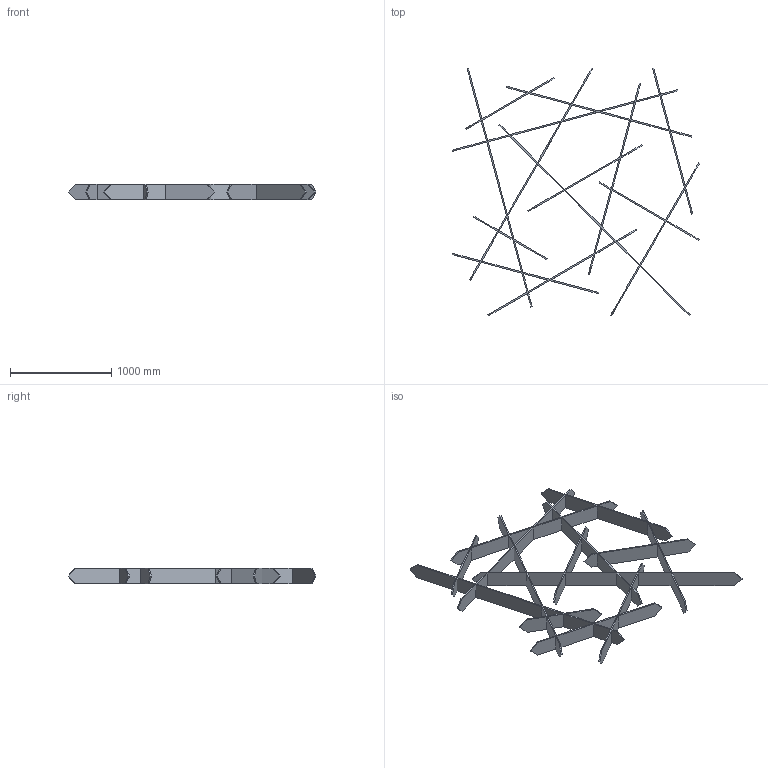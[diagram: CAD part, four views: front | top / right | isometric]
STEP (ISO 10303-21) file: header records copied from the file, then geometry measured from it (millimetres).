
FILE_DESCRIPTION(/* description */ (''),/* implementation_level */ '2;1');
FILE_NAME(/* name */ 'Thatch Arrow Simplified',/* time_stamp */ '2026-04-13T11:10:33-05:00',/* author */ (''),/* organization */ (''),/* preprocessor_version */ 'ST-DEVELOPER v19.2',/* originating_system */ 'Rhino 8.29',/* authorisation */ '');
FILE_SCHEMA (('CONFIG_CONTROL_DESIGN'));
Length unit declared in the file: inch
Products named in the file (1): Document
Bounding box: 2445.54 x 2447.07 x 152.4 mm (x, y, z)
Surface area: 7465574 mm2 (no closed solid volume)
Topology: 0 solids, 57 shells, 198 faces, 877 edges, 690 vertices
Faces by surface type: plane 198
Entity records: 7428 total; most frequent: CARTESIAN_POINT 2487, ORIENTED_EDGE 1176, B_SPLINE_CURVE_WITH_KNOTS 821, EDGE_CURVE 784, VERTEX_POINT 616, DIRECTION 232, EDGE_LOOP 228, ADVANCED_FACE 198
